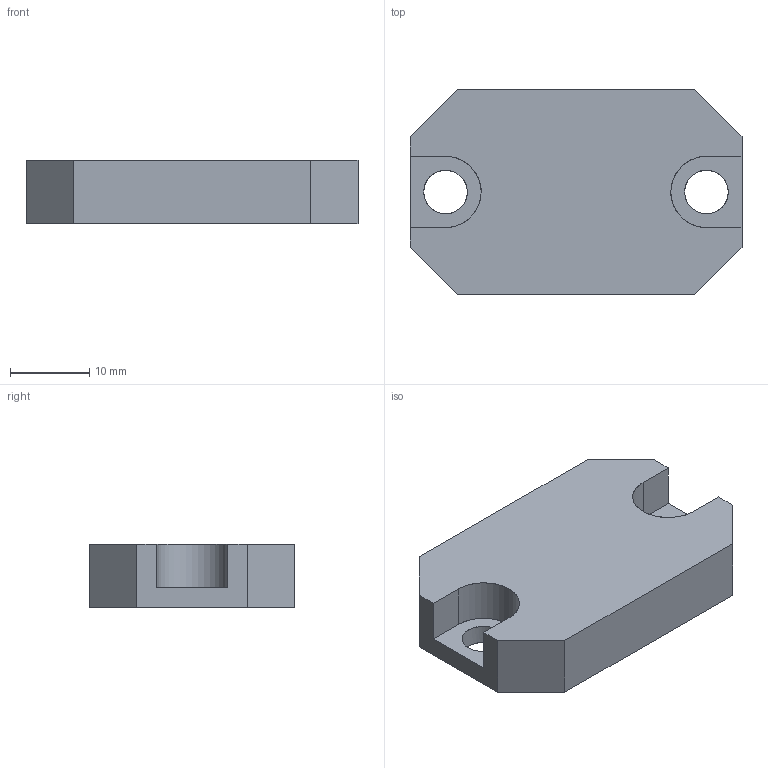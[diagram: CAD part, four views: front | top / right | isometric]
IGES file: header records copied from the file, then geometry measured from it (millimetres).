
Global section: file name: E:\UnigraphicsGraphicData\MISUMI_MOLD-PARTS\NX\3d_app20_00915_r00.igs; native system: NX V5.0; preprocessor: UGS NX IGES V5.0; author: MISUMI; date: 20101115.182447; units: millimetre
Bounding box: 42 x 26 x 8 mm (x, y, z)
Surface area: 3162.3 mm2 (no closed solid volume)
Topology: 0 solids, 0 shells, 20 faces, 148 edges, 144 vertices
Faces by surface type: bspline 20
